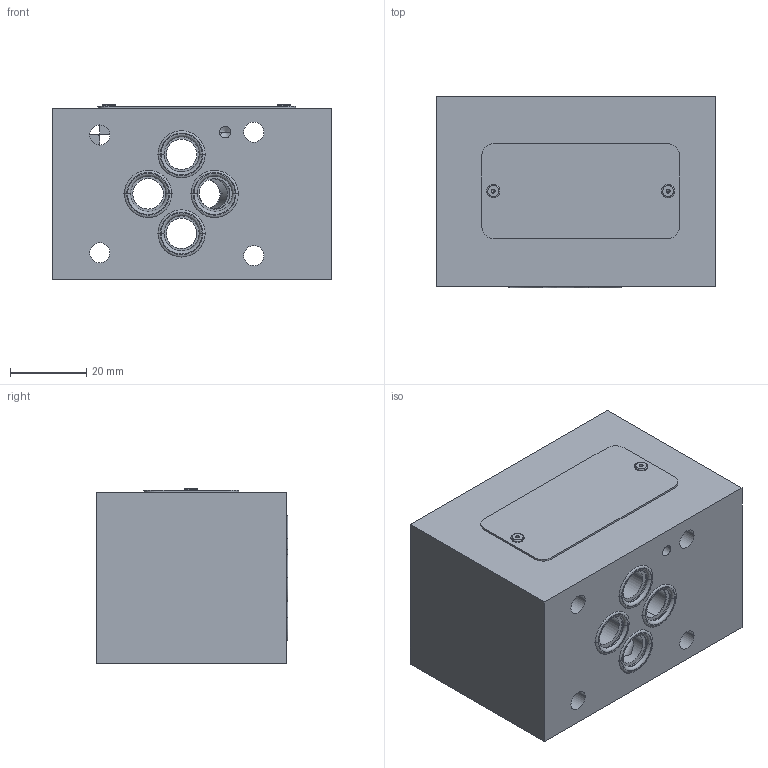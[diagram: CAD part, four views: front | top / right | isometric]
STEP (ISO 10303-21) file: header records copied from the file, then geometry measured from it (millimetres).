
FILE_DESCRIPTION((''),'2;1');
FILE_NAME('29527400_ASM','2023-10-12T',('l.soukupova'),(''),'PRO/ENGINEER BY PARAMETRIC TECHNOLOGY CORPORATION, 2015440','PRO/ENGINEER BY PARAMETRIC TECHNOLOGY CORPORATION, 2015440','');
FILE_SCHEMA(('AUTOMOTIVE_DESIGN { 1 0 10303 214 1 1 1 1 }'));
Length unit declared in the file: millimetre
Products named in the file (8): 29515101; RD_LABEL_25X52_159703; AF_1932_16485; ORAR00012_201524_AF4; ORAR00012_201524_AF5; ORAR00012_201524_AF6; ORAR00012_201524_AF7; 29527400_ASM
Assembly tree (8 placements, depth 2):
  29527400_ASM
    29515101
    RD_LABEL_25X52_159703
    AF_1932_16485  x2
    ORAR00012_201524_AF4
    ORAR00012_201524_AF5
    ORAR00012_201524_AF6
    ORAR00012_201524_AF7
Bounding box: 73.5 x 50.38 x 46 mm (x, y, z)
Volume: 143648.9 mm3; surface area: 32802.3 mm2
Topology: 8 solids, 11 shells, 185 faces, 576 edges, 479 vertices
Faces by surface type: cylinder 88, torus 36, plane 34, cone 27
Entity records: 10608 total; most frequent: CARTESIAN_POINT 2097, DIRECTION 1192, ORIENTED_EDGE 810, PRESENTATION_STYLE_ASSIGNMENT 699, STYLED_ITEM 599, CURVE_STYLE 590, AXIS2_PLACEMENT_3D 482, EDGE_CURVE 411
